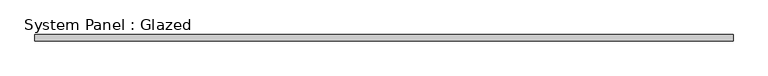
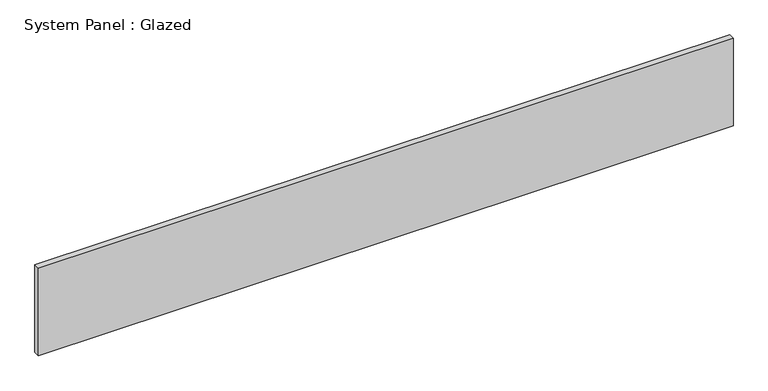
"""IFC4 building model written with IfcOpenShell, lengths in millimetres: plate geometry, System Panel : Glazed."""

from ifc_helpers import new_model, si_unit, origin, origin_with_axes, place, context, project, spatial, polyline, outline, extrude, source, transform, mapped, element, save


def system_panel_glazed_f2c6a52c(model_context):
    return source(origin(), model_context, "Body", "SweptSolid", [
        extrude(outline(polyline([(1404.7802482, 24.5), (-1404.7802482, 24.5), (-1404.7802482, 49.5), (1404.7802482, 49.5), (1404.7802482, 24.5)])), origin_with_axes(), (0.0, 0.0, 1.0), 373.4924443),
    ])


if __name__ == "__main__":
    model = new_model("IFC4")
    model_context = context("Model", 3, world=origin())
    ifc_project = project(units=[si_unit("LENGTHUNIT", "METRE", prefix="MILLI")], contexts=[model_context])
    site = spatial("IfcSite", under=ifc_project)
    building = spatial("IfcBuilding", under=site)
    placement = place(None, origin())
    system_panel_glazed_shape = system_panel_glazed_f2c6a52c(model_context)
    element("IfcPlate", 1, ObjectType="System Panel : Glazed", at=placement, inside=building, context=model_context, shape_type="MappedRepresentation", body=[
        mapped(system_panel_glazed_shape, transform((0.0, 0.0, 0.0), x_axis=(1.0, 0.0, 0.0), y_axis=(0.0, 1.0, 0.0), z_axis=(0.0, 0.0, 1.0))),
    ])
    save(model, "model.ifc")
